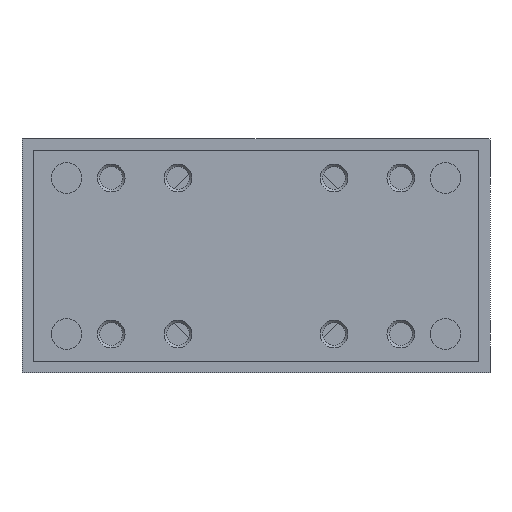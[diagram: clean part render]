
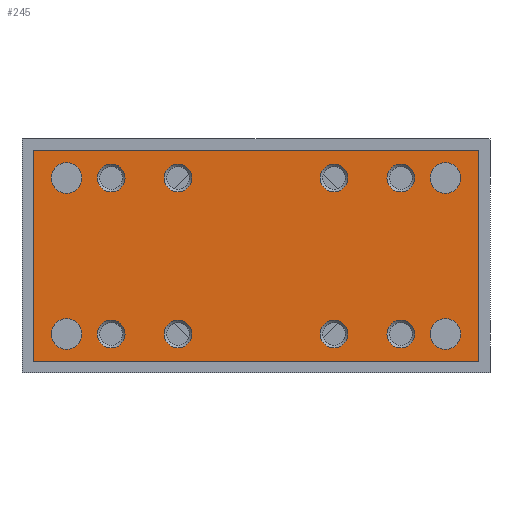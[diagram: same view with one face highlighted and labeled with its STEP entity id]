
A CAD part, left-side view. The second image highlights one B-rep face of the part: STEP entity #245.
In plain terms, the highlighted planar face has unit normal (-1, 0, 0).
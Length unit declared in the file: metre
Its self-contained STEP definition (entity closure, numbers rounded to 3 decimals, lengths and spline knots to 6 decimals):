
#245 = ADVANCED_FACE( '', ( #660, #661, #662, #663, #664, #665, #666, #667, #668, #669, #670, #671, #672 ), #673, .T. );
#660 = FACE_BOUND( '', #1394, .T. );
#661 = FACE_BOUND( '', #1395, .T. );
#662 = FACE_BOUND( '', #1396, .T. );
#663 = FACE_BOUND( '', #1397, .T. );
#664 = FACE_BOUND( '', #1398, .T. );
#665 = FACE_BOUND( '', #1399, .T. );
#666 = FACE_BOUND( '', #1400, .T. );
#667 = FACE_BOUND( '', #1401, .T. );
#668 = FACE_BOUND( '', #1402, .T. );
#669 = FACE_BOUND( '', #1403, .T. );
#670 = FACE_BOUND( '', #1404, .T. );
#671 = FACE_BOUND( '', #1405, .T. );
#672 = FACE_OUTER_BOUND( '', #1406, .T. );
#673 = PLANE( '', #1407 );
#1394 = EDGE_LOOP( '', ( #2166 ) );
#1395 = EDGE_LOOP( '', ( #2167 ) );
#1396 = EDGE_LOOP( '', ( #2168 ) );
#1397 = EDGE_LOOP( '', ( #2169 ) );
#1398 = EDGE_LOOP( '', ( #2170 ) );
#1399 = EDGE_LOOP( '', ( #2171 ) );
#1400 = EDGE_LOOP( '', ( #2172 ) );
#1401 = EDGE_LOOP( '', ( #2173 ) );
#1402 = EDGE_LOOP( '', ( #2174 ) );
#1403 = EDGE_LOOP( '', ( #2175 ) );
#1404 = EDGE_LOOP( '', ( #2176 ) );
#1405 = EDGE_LOOP( '', ( #2177 ) );
#1406 = EDGE_LOOP( '', ( #2178, #2179, #2180, #2181 ) );
#1407 = AXIS2_PLACEMENT_3D( '', #2182, #2183, #2184 );
#2166 = ORIENTED_EDGE( '', *, *, #3349, .F. );
#2167 = ORIENTED_EDGE( '', *, *, #3350, .F. );
#2168 = ORIENTED_EDGE( '', *, *, #3351, .F. );
#2169 = ORIENTED_EDGE( '', *, *, #3352, .F. );
#2170 = ORIENTED_EDGE( '', *, *, #3353, .T. );
#2171 = ORIENTED_EDGE( '', *, *, #3354, .F. );
#2172 = ORIENTED_EDGE( '', *, *, #3355, .F. );
#2173 = ORIENTED_EDGE( '', *, *, #3356, .T. );
#2174 = ORIENTED_EDGE( '', *, *, #3357, .T. );
#2175 = ORIENTED_EDGE( '', *, *, #3358, .F. );
#2176 = ORIENTED_EDGE( '', *, *, #3359, .F. );
#2177 = ORIENTED_EDGE( '', *, *, #3360, .T. );
#2178 = ORIENTED_EDGE( '', *, *, #3361, .T. );
#2179 = ORIENTED_EDGE( '', *, *, #3362, .T. );
#2180 = ORIENTED_EDGE( '', *, *, #3363, .T. );
#2181 = ORIENTED_EDGE( '', *, *, #3364, .T. );
#2182 = CARTESIAN_POINT( '', ( -0.062, -0.04, -0.002 ) );
#2183 = DIRECTION( '', ( -1., 0., 0. ) );
#2184 = DIRECTION( '', ( 0., -1., 0. ) );
#3349 = EDGE_CURVE( '', #3849, #3849, #3850, .T. );
#3350 = EDGE_CURVE( '', #3851, #3851, #3852, .T. );
#3351 = EDGE_CURVE( '', #3853, #3853, #3854, .T. );
#3352 = EDGE_CURVE( '', #3855, #3855, #3856, .T. );
#3353 = EDGE_CURVE( '', #3857, #3857, #3858, .T. );
#3354 = EDGE_CURVE( '', #3859, #3859, #3860, .T. );
#3355 = EDGE_CURVE( '', #3861, #3861, #3862, .T. );
#3356 = EDGE_CURVE( '', #3863, #3863, #3864, .T. );
#3357 = EDGE_CURVE( '', #3865, #3865, #3866, .T. );
#3358 = EDGE_CURVE( '', #3867, #3867, #3868, .T. );
#3359 = EDGE_CURVE( '', #3869, #3869, #3870, .T. );
#3360 = EDGE_CURVE( '', #3871, #3871, #3872, .T. );
#3361 = EDGE_CURVE( '', #3873, #3874, #3875, .T. );
#3362 = EDGE_CURVE( '', #3874, #3876, #3877, .T. );
#3363 = EDGE_CURVE( '', #3876, #3878, #3879, .T. );
#3364 = EDGE_CURVE( '', #3878, #3873, #3880, .T. );
#3849 = VERTEX_POINT( '', #4938 );
#3850 = CIRCLE( '', #4939, 0.00275 );
#3851 = VERTEX_POINT( '', #4940 );
#3852 = CIRCLE( '', #4941, 0.00275 );
#3853 = VERTEX_POINT( '', #4942 );
#3854 = CIRCLE( '', #4943, 0.00275 );
#3855 = VERTEX_POINT( '', #4944 );
#3856 = CIRCLE( '', #4945, 0.00275 );
#3857 = VERTEX_POINT( '', #4946 );
#3858 = CIRCLE( '', #4947, 0.0025 );
#3859 = VERTEX_POINT( '', #4948 );
#3860 = CIRCLE( '', #4949, 0.0025 );
#3861 = VERTEX_POINT( '', #4950 );
#3862 = CIRCLE( '', #4951, 0.0025 );
#3863 = VERTEX_POINT( '', #4952 );
#3864 = CIRCLE( '', #4953, 0.0025 );
#3865 = VERTEX_POINT( '', #4954 );
#3866 = CIRCLE( '', #4955, 0.0025 );
#3867 = VERTEX_POINT( '', #4956 );
#3868 = CIRCLE( '', #4957, 0.0025 );
#3869 = VERTEX_POINT( '', #4958 );
#3870 = CIRCLE( '', #4959, 0.0025 );
#3871 = VERTEX_POINT( '', #4960 );
#3872 = CIRCLE( '', #4961, 0.0025 );
#3873 = VERTEX_POINT( '', #4962 );
#3874 = VERTEX_POINT( '', #4963 );
#3875 = LINE( '', #4964, #4965 );
#3876 = VERTEX_POINT( '', #4966 );
#3877 = LINE( '', #4967, #4968 );
#3878 = VERTEX_POINT( '', #4969 );
#3879 = LINE( '', #4970, #4971 );
#3880 = LINE( '', #4972, #4973 );
#4938 = CARTESIAN_POINT( '', ( -0.062, -0.03675, -0.035 ) );
#4939 = AXIS2_PLACEMENT_3D( '', #6056, #6057, #6058 );
#4940 = CARTESIAN_POINT( '', ( -0.062, 0.03125, -0.035 ) );
#4941 = AXIS2_PLACEMENT_3D( '', #6059, #6060, #6061 );
#4942 = CARTESIAN_POINT( '', ( -0.062, -0.03675, -0.007 ) );
#4943 = AXIS2_PLACEMENT_3D( '', #6062, #6063, #6064 );
#4944 = CARTESIAN_POINT( '', ( -0.062, 0.03125, -0.007 ) );
#4945 = AXIS2_PLACEMENT_3D( '', #6065, #6066, #6067 );
#4946 = CARTESIAN_POINT( '', ( -0.062, -0.026, -0.0375 ) );
#4947 = AXIS2_PLACEMENT_3D( '', #6068, #6069, #6070 );
#4948 = CARTESIAN_POINT( '', ( -0.062, 0.026, -0.0375 ) );
#4949 = AXIS2_PLACEMENT_3D( '', #6071, #6072, #6073 );
#4950 = CARTESIAN_POINT( '', ( -0.062, -0.026, -0.0045 ) );
#4951 = AXIS2_PLACEMENT_3D( '', #6074, #6075, #6076 );
#4952 = CARTESIAN_POINT( '', ( -0.062, 0.026, -0.0045 ) );
#4953 = AXIS2_PLACEMENT_3D( '', #6077, #6078, #6079 );
#4954 = CARTESIAN_POINT( '', ( -0.062, -0.014, -0.0375 ) );
#4955 = AXIS2_PLACEMENT_3D( '', #6080, #6081, #6082 );
#4956 = CARTESIAN_POINT( '', ( -0.062, 0.014, -0.0375 ) );
#4957 = AXIS2_PLACEMENT_3D( '', #6083, #6084, #6085 );
#4958 = CARTESIAN_POINT( '', ( -0.062, -0.014, -0.0045 ) );
#4959 = AXIS2_PLACEMENT_3D( '', #6086, #6087, #6088 );
#4960 = CARTESIAN_POINT( '', ( -0.062, 0.014, -0.0045 ) );
#4961 = AXIS2_PLACEMENT_3D( '', #6089, #6090, #6091 );
#4962 = CARTESIAN_POINT( '', ( -0.062, -0.04, -0.04 ) );
#4963 = CARTESIAN_POINT( '', ( -0.062, -0.04, -0.002 ) );
#4964 = CARTESIAN_POINT( '', ( -0.062, -0.04, -0.04 ) );
#4965 = VECTOR( '', #6092, 1. );
#4966 = CARTESIAN_POINT( '', ( -0.062, 0.04, -0.002 ) );
#4967 = CARTESIAN_POINT( '', ( -0.062, -0.04, -0.002 ) );
#4968 = VECTOR( '', #6093, 1. );
#4969 = CARTESIAN_POINT( '', ( -0.062, 0.04, -0.04 ) );
#4970 = CARTESIAN_POINT( '', ( -0.062, 0.04, -0.002 ) );
#4971 = VECTOR( '', #6094, 1. );
#4972 = CARTESIAN_POINT( '', ( -0.062, 0.04, -0.04 ) );
#4973 = VECTOR( '', #6095, 1. );
#6056 = CARTESIAN_POINT( '', ( -0.062, -0.034, -0.035 ) );
#6057 = DIRECTION( '', ( -1., 0., 0. ) );
#6058 = DIRECTION( '', ( 0., -1., 0. ) );
#6059 = CARTESIAN_POINT( '', ( -0.062, 0.034, -0.035 ) );
#6060 = DIRECTION( '', ( -1., 0., 0. ) );
#6061 = DIRECTION( '', ( 0., -1., 0. ) );
#6062 = CARTESIAN_POINT( '', ( -0.062, -0.034, -0.007 ) );
#6063 = DIRECTION( '', ( -1., 0., 0. ) );
#6064 = DIRECTION( '', ( 0., -1., 0. ) );
#6065 = CARTESIAN_POINT( '', ( -0.062, 0.034, -0.007 ) );
#6066 = DIRECTION( '', ( -1., 0., 0. ) );
#6067 = DIRECTION( '', ( 0., -1., 0. ) );
#6068 = CARTESIAN_POINT( '', ( -0.062, -0.026, -0.035 ) );
#6069 = DIRECTION( '', ( 1., 0., 0. ) );
#6070 = DIRECTION( '', ( 0., 0., -1. ) );
#6071 = CARTESIAN_POINT( '', ( -0.062, 0.026, -0.035 ) );
#6072 = DIRECTION( '', ( -1., 0., 0. ) );
#6073 = DIRECTION( '', ( 0., 0., -1. ) );
#6074 = CARTESIAN_POINT( '', ( -0.062, -0.026, -0.007 ) );
#6075 = DIRECTION( '', ( -1., 0., 0. ) );
#6076 = DIRECTION( '', ( 0., 0., 1. ) );
#6077 = CARTESIAN_POINT( '', ( -0.062, 0.026, -0.007 ) );
#6078 = DIRECTION( '', ( 1., 0., 0. ) );
#6079 = DIRECTION( '', ( 0., 0., 1. ) );
#6080 = CARTESIAN_POINT( '', ( -0.062, -0.014, -0.035 ) );
#6081 = DIRECTION( '', ( 1., 0., 0. ) );
#6082 = DIRECTION( '', ( 0., 0., -1. ) );
#6083 = CARTESIAN_POINT( '', ( -0.062, 0.014, -0.035 ) );
#6084 = DIRECTION( '', ( -1., 0., 0. ) );
#6085 = DIRECTION( '', ( 0., 0., -1. ) );
#6086 = CARTESIAN_POINT( '', ( -0.062, -0.014, -0.007 ) );
#6087 = DIRECTION( '', ( -1., 0., 0. ) );
#6088 = DIRECTION( '', ( 0., 0., 1. ) );
#6089 = CARTESIAN_POINT( '', ( -0.062, 0.014, -0.007 ) );
#6090 = DIRECTION( '', ( 1., 0., 0. ) );
#6091 = DIRECTION( '', ( 0., 0., 1. ) );
#6092 = DIRECTION( '', ( 0., 0., 1. ) );
#6093 = DIRECTION( '', ( 0., 1., 0. ) );
#6094 = DIRECTION( '', ( 0., 0., -1. ) );
#6095 = DIRECTION( '', ( 0., -1., 0. ) );
